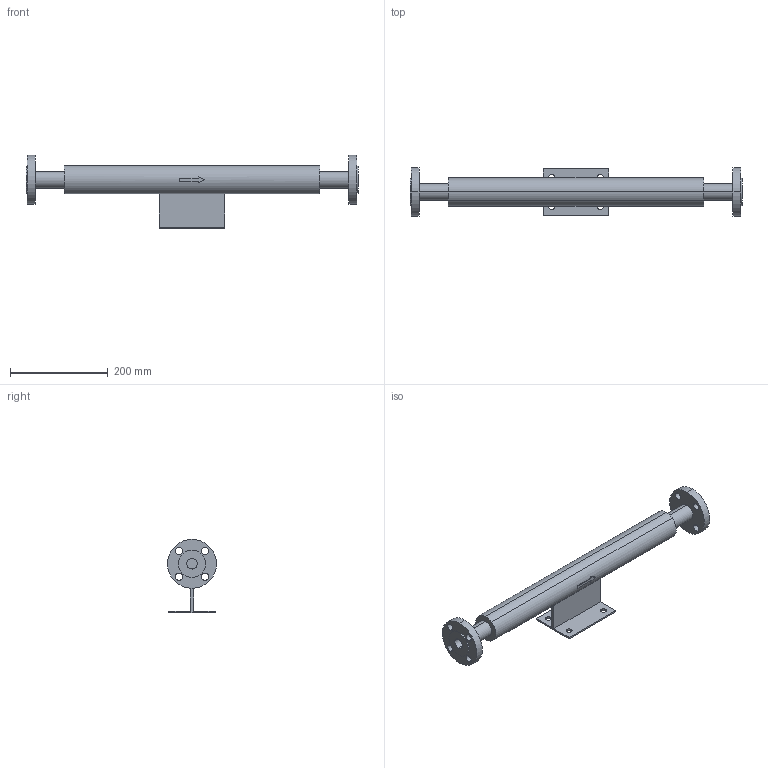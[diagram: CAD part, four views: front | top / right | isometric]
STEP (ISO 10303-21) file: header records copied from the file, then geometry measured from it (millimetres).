
FILE_DESCRIPTION( (''), '2;1');
FILE_NAME ('PC1027.12084.EB-12_20A_18304.stp','2025-07-29T18:24:28',(''),(''),'spGate 20.6.3 (****-****-****-****)','','');
FILE_SCHEMA (('AUTOMOTIVE_DESIGN'));
Length unit declared in the file: millimetre
Bounding box: 680 x 100 x 150 mm (x, y, z)
Volume: 1826970.5 mm3; surface area: 202767.2 mm2
Topology: 1 solids, 1 shells, 77 faces, 202 edges, 138 vertices
Faces by surface type: cylinder 42, plane 35
Entity records: 4041 total; most frequent: CARTESIAN_POINT 467, DIRECTION 412, ORIENTED_EDGE 404, COLOUR_RGB 280, PRESENTATION_STYLE_ASSIGNMENT 280, STYLED_ITEM 280, EDGE_CURVE 202, DRAUGHTING_PRE_DEFINED_CURVE_FONT 202
